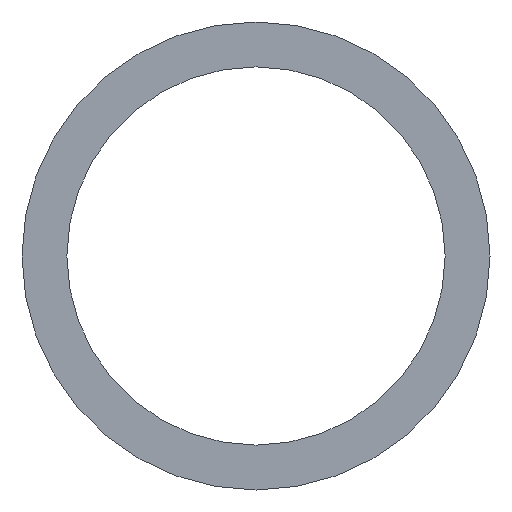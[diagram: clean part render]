
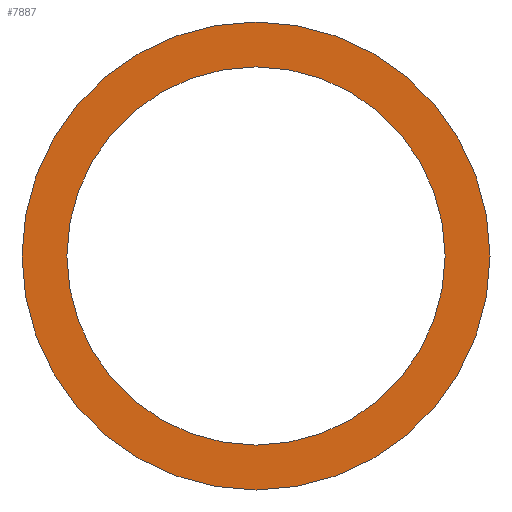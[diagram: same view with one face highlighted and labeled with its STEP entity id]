
A CAD part, front view. The second image highlights one B-rep face of the part: STEP entity #7887.
In plain terms, the highlighted planar face has unit normal (0, -1, 0).
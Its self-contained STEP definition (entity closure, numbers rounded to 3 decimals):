
#20 = EDGE_CURVE ( 'NONE', #385, #5699, #5599, .T. ) ;
#204 = DIRECTION ( 'NONE',  ( 0., 0., -1. ) ) ;
#385 = VERTEX_POINT ( 'NONE', #2428 ) ;
#486 = ORIENTED_EDGE ( 'NONE', *, *, #8484, .T. ) ;
#880 = VERTEX_POINT ( 'NONE', #1467 ) ;
#882 = EDGE_CURVE ( 'NONE', #5699, #385, #7560, .T. ) ;
#998 = DIRECTION ( 'NONE',  ( 0., 1., 0. ) ) ;
#1435 = AXIS2_PLACEMENT_3D ( 'NONE', #4232, #5612, #6340 ) ;
#1467 = CARTESIAN_POINT ( 'NONE',  ( 0., -58., 247.5 ) ) ;
#1844 = AXIS2_PLACEMENT_3D ( 'NONE', #5657, #4214, #2881 ) ;
#1858 = AXIS2_PLACEMENT_3D ( 'NONE', #2310, #5185, #204 ) ;
#1882 = VERTEX_POINT ( 'NONE', #4769 ) ;
#2163 = CIRCLE ( 'NONE', #3758, 247.5 ) ;
#2310 = CARTESIAN_POINT ( 'NONE',  ( 0., -58., 0. ) ) ;
#2428 = CARTESIAN_POINT ( 'NONE',  ( 0., -58., -200. ) ) ;
#2881 = DIRECTION ( 'NONE',  ( 0., 0., -1. ) ) ;
#2950 = CARTESIAN_POINT ( 'NONE',  ( 0., -58., 0. ) ) ;
#3065 = AXIS2_PLACEMENT_3D ( 'NONE', #8706, #998, #7197 ) ;
#3095 = ORIENTED_EDGE ( 'NONE', *, *, #20, .F. ) ;
#3230 = EDGE_LOOP ( 'NONE', ( #486, #6205 ) ) ;
#3684 = PLANE ( 'NONE',  #3065 ) ;
#3697 = DIRECTION ( 'NONE',  ( 0., 0., -1. ) ) ;
#3758 = AXIS2_PLACEMENT_3D ( 'NONE', #2950, #5061, #3697 ) ;
#3772 = EDGE_LOOP ( 'NONE', ( #3095, #7260 ) ) ;
#4214 = DIRECTION ( 'NONE',  ( 0., -1., 0. ) ) ;
#4232 = CARTESIAN_POINT ( 'NONE',  ( 0., -58., 0. ) ) ;
#4769 = CARTESIAN_POINT ( 'NONE',  ( 0., -58., -247.5 ) ) ;
#5061 = DIRECTION ( 'NONE',  ( 0., -1., 0. ) ) ;
#5185 = DIRECTION ( 'NONE',  ( 0., -1., 0. ) ) ;
#5599 = CIRCLE ( 'NONE', #1858, 200. ) ;
#5612 = DIRECTION ( 'NONE',  ( 0., -1., 0. ) ) ;
#5657 = CARTESIAN_POINT ( 'NONE',  ( 0., -58., 0. ) ) ;
#5699 = VERTEX_POINT ( 'NONE', #7067 ) ;
#6205 = ORIENTED_EDGE ( 'NONE', *, *, #8287, .T. ) ;
#6340 = DIRECTION ( 'NONE',  ( 0., 0., -1. ) ) ;
#7067 = CARTESIAN_POINT ( 'NONE',  ( 0., -58., 200. ) ) ;
#7197 = DIRECTION ( 'NONE',  ( 0., 0., 1. ) ) ;
#7201 = FACE_BOUND ( 'NONE', #3772, .T. ) ;
#7260 = ORIENTED_EDGE ( 'NONE', *, *, #882, .F. ) ;
#7560 = CIRCLE ( 'NONE', #1844, 200. ) ;
#7887 = ADVANCED_FACE ( 'NONE', ( #7201, #8827 ), #3684, .F. ) ;
#8170 = CIRCLE ( 'NONE', #1435, 247.5 ) ;
#8287 = EDGE_CURVE ( 'NONE', #880, #1882, #8170, .T. ) ;
#8484 = EDGE_CURVE ( 'NONE', #1882, #880, #2163, .T. ) ;
#8706 = CARTESIAN_POINT ( 'NONE',  ( 0., -58., 200. ) ) ;
#8827 = FACE_OUTER_BOUND ( 'NONE', #3230, .T. ) ;
